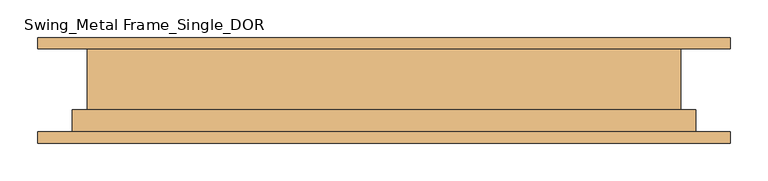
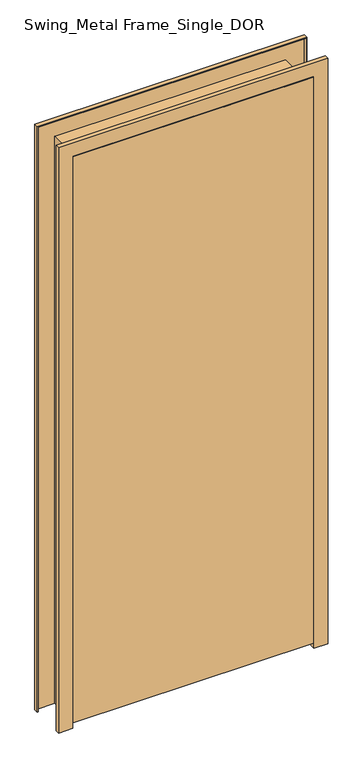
"""IFC4 building model written with IfcOpenShell, lengths in millimetres: door geometry, Swing_Metal Frame_Single_DOR : 2040h x 820 (2110x920 STUD)."""

from ifc_helpers import new_model, si_unit, frame, origin, place, context, project, spatial, polyline, outline, extrude, faceted_brep, source, transform, mapped, element, save


def swing_metal_frame_single_dor_a031a637(model_context):
    return source(origin(), model_context, "Body", "SolidModel", [
        extrude(outline(polyline([(410.0, -70.0), (-410.0, -70.0), (-410.0, -30.0), (410.0, -30.0), (410.0, -70.0)])), frame((0.0, 0.0, 20.0), z_axis=(0.0, 0.0, 1.0), x_axis=(1.0, 0.0, 0.0)), (0.0, 0.0, 1.0), 2040.0),
        faceted_brep([(-460.0, 70.0, 0.0), (-392.0, 70.0, 0.0), (-392.0, -28.0, 0.0), (-412.0, -28.0, 0.0), (-412.0, -70.0, 0.0), (-460.0, -70.0, 0.0), (-460.0, -55.0, 0.0), (-458.0, -55.0, 0.0), (-458.0, -68.0, 0.0), (-414.0, -68.0, 0.0), (-414.0, -26.0, 0.0), (-394.0, -26.0, 0.0), (-394.0, 68.0, 0.0), (-458.0, 68.0, 0.0), (-458.0, 55.0, 0.0), (-460.0, 55.0, 0.0), (-460.0, 55.0, 2110.0), (-460.0, 70.0, 2110.0), (-458.0, 55.0, 2108.0), (458.0, 55.0, 2108.0), (458.0, 55.0, 0.0), (460.0, 55.0, 0.0), (460.0, 55.0, 2110.0), (-458.0, 68.0, 2108.0), (-394.0, 68.0, 2044.0), (394.0, 68.0, 2044.0), (394.0, 68.0, 0.0), (458.0, 68.0, 0.0), (458.0, 68.0, 2108.0), (-394.0, -26.0, 2044.0), (-414.0, -26.0, 2064.0), (414.0, -26.0, 2064.0), (414.0, -26.0, 0.0), (394.0, -26.0, 0.0), (394.0, -26.0, 2044.0), (-414.0, -68.0, 2064.0), (-458.0, -68.0, 2108.0), (458.0, -68.0, 2108.0), (458.0, -68.0, 0.0), (414.0, -68.0, 0.0), (414.0, -68.0, 2064.0), (-458.0, -55.0, 2108.0), (-460.0, -55.0, 2110.0), (460.0, -55.0, 2110.0), (460.0, -55.0, 0.0), (458.0, -55.0, 0.0), (458.0, -55.0, 2108.0), (-460.0, -70.0, 2110.0), (-412.0, -70.0, 2062.0), (412.0, -70.0, 2062.0), (412.0, -70.0, 0.0), (460.0, -70.0, 0.0), (460.0, -70.0, 2110.0), (-412.0, -28.0, 2062.0), (-392.0, -28.0, 2042.0), (392.0, -28.0, 2042.0), (392.0, -28.0, 0.0), (412.0, -28.0, 0.0), (412.0, -28.0, 2062.0), (-392.0, 70.0, 2042.0), (460.0, 70.0, 2110.0), (460.0, 70.0, 0.0), (392.0, 70.0, 0.0), (392.0, 70.0, 2042.0)], [[[0, 1, 2, 3, 4, 5, 6, 7, 8, 9, 10, 11, 12, 13, 14, 15]], [[15, 16, 17, 0]], [[14, 18, 19, 20, 21, 22, 16, 15]], [[13, 23, 18, 14]], [[12, 24, 25, 26, 27, 28, 23, 13]], [[11, 29, 24, 12]], [[10, 30, 31, 32, 33, 34, 29, 11]], [[9, 35, 30, 10]], [[8, 36, 37, 38, 39, 40, 35, 9]], [[7, 41, 36, 8]], [[6, 42, 43, 44, 45, 46, 41, 7]], [[5, 47, 42, 6]], [[4, 48, 49, 50, 51, 52, 47, 5]], [[3, 53, 48, 4]], [[2, 54, 55, 56, 57, 58, 53, 3]], [[1, 59, 54, 2]], [[0, 17, 60, 61, 62, 63, 59, 1]], [[22, 21, 61, 60]], [[61, 21, 20, 27, 26, 33, 32, 39, 38, 45, 44, 51, 50, 57, 56, 62]], [[28, 27, 20, 19]], [[34, 33, 26, 25]], [[40, 39, 32, 31]], [[46, 45, 38, 37]], [[52, 51, 44, 43]], [[58, 57, 50, 49]], [[63, 62, 56, 55]], [[16, 22, 60, 17]], [[23, 28, 19, 18]], [[29, 34, 25, 24]], [[35, 40, 31, 30]], [[41, 46, 37, 36]], [[47, 52, 43, 42]], [[53, 58, 49, 48]], [[59, 63, 55, 54]]]),
    ])


if __name__ == "__main__":
    model = new_model("IFC4")
    model_context = context("Model", 3, world=origin())
    ifc_project = project(units=[si_unit("LENGTHUNIT", "METRE", prefix="MILLI")], contexts=[model_context])
    site = spatial("IfcSite", under=ifc_project)
    building = spatial("IfcBuilding", under=site)
    placement = place(None, origin())
    swing_metal_frame_single_dor_shape = swing_metal_frame_single_dor_a031a637(model_context)
    element("IfcDoor", 1, ObjectType="Swing_Metal Frame_Single_DOR : 2040h x 820 (2110x920 STUD)", at=placement, inside=building, context=model_context, shape_type="MappedRepresentation", body=[
        mapped(swing_metal_frame_single_dor_shape, transform((0.0, 0.0, 0.0), x_axis=(1.0, 0.0, 0.0), y_axis=(0.0, 1.0, 0.0), z_axis=(0.0, 0.0, 1.0))),
    ])
    save(model, "model.ifc")
